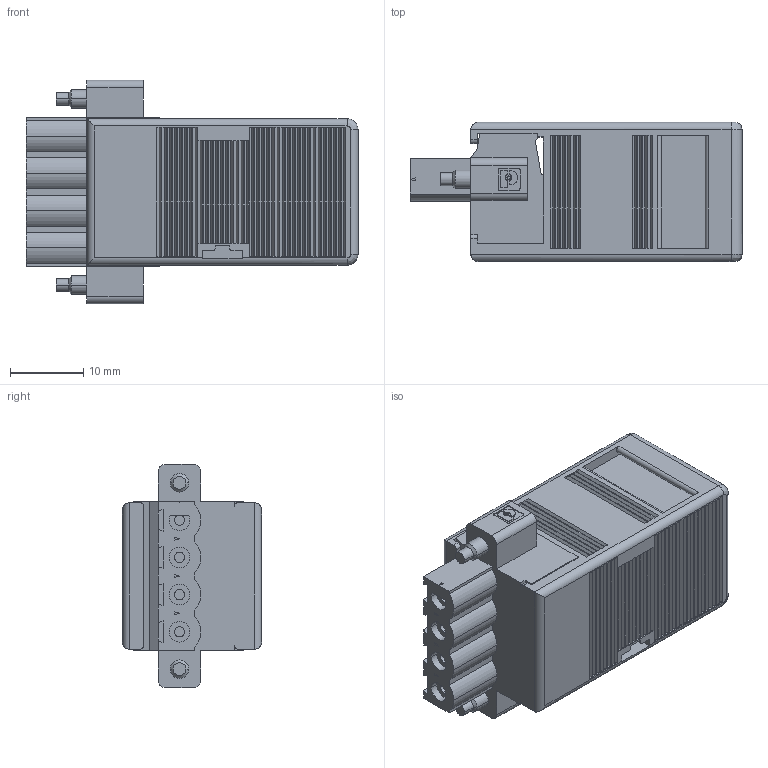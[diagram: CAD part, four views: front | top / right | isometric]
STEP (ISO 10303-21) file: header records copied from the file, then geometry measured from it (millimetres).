
FILE_DESCRIPTION((''),'2;1');
FILE_NAME('CONN_CONT_4_POS_CMBCN_TB','2007-01-25T',('chrisj'),(''),'PRO/ENGINEER BY PARAMETRIC TECHNOLOGY CORPORATION, 2006080','PRO/ENGINEER BY PARAMETRIC TECHNOLOGY CORPORATION, 2006080','');
FILE_SCHEMA(('AUTOMOTIVE_DESIGN_CC2 { 1 2 10303 214 -1 1 5 2 }'));
Length unit declared in the file: inch
Products named in the file (1): CONN_CONT_4_POS_CMBCN_TB
Bounding box: 45.3 x 19 x 30.48 mm (x, y, z)
Volume: 14375.6 mm3; surface area: 6228.5 mm2
Topology: 1 solids, 1 shells, 716 faces, 1734 edges, 1143 vertices
Faces by surface type: plane 585, cylinder 115, torus 8, bspline 4, cone 4
Entity records: 20810 total; most frequent: CARTESIAN_POINT 3684, ORIENTED_EDGE 3468, DIRECTION 3439, EDGE_CURVE 1734, VECTOR 1445, LINE 1445, VERTEX_POINT 1143, AXIS2_PLACEMENT_3D 997
